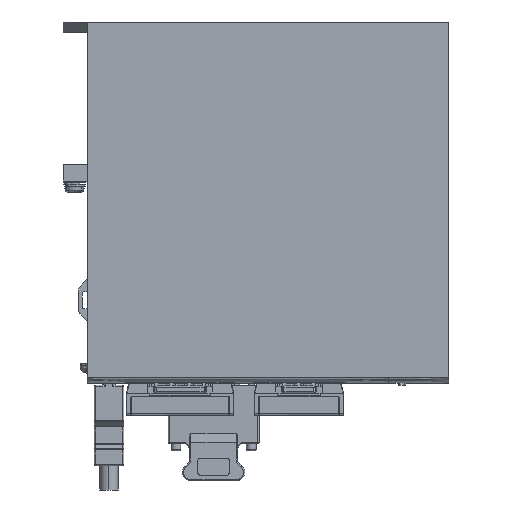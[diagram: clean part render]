
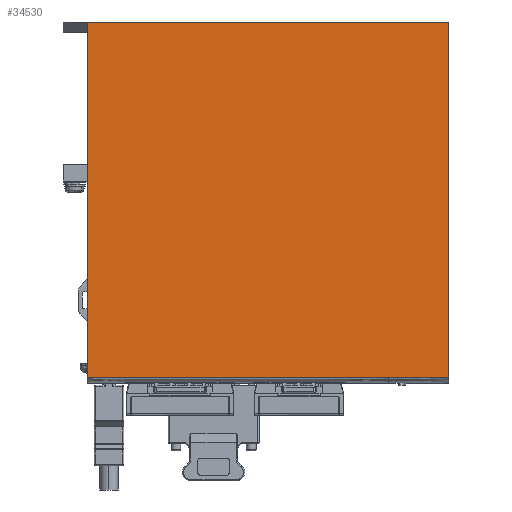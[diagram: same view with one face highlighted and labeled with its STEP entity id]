
A CAD part, front view. The second image highlights one B-rep face of the part: STEP entity #34530.
In plain terms, the highlighted planar face has unit normal (0, -1, 0).
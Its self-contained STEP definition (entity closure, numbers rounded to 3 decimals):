
#2845 = VERTEX_POINT ( 'NONE', #132461 ) ;
#3465 = VERTEX_POINT ( 'NONE', #112826 ) ;
#5259 = EDGE_CURVE ( 'NONE', #2845, #3465, #71712, .T. ) ;
#6756 = DIRECTION ( 'NONE',  ( 1., 0., 0. ) ) ;
#17033 = CARTESIAN_POINT ( 'NONE',  ( -150., 0., -81.9 ) ) ;
#20353 = CARTESIAN_POINT ( 'NONE',  ( -150., 0., 65.6 ) ) ;
#25976 = CARTESIAN_POINT ( 'NONE',  ( 0., 0., -81.9 ) ) ;
#28404 = VERTEX_POINT ( 'NONE', #20353 ) ;
#28653 = CARTESIAN_POINT ( 'NONE',  ( -150., 0., -81.9 ) ) ;
#34530 = ADVANCED_FACE ( 'NONE', ( #137076 ), #74881, .T. ) ;
#36212 = VECTOR ( 'NONE', #6756, 1000. ) ;
#40232 = ORIENTED_EDGE ( 'NONE', *, *, #5259, .T. ) ;
#50541 = DIRECTION ( 'NONE',  ( 0., -1., 0. ) ) ;
#50997 = CARTESIAN_POINT ( 'NONE',  ( 0., 0., 65.6 ) ) ;
#51667 = DIRECTION ( 'NONE',  ( 0., 0., -1. ) ) ;
#57845 = EDGE_LOOP ( 'NONE', ( #146431, #119621, #98979, #40232 ) ) ;
#59762 = LINE ( 'NONE', #25976, #115958 ) ;
#67329 = VERTEX_POINT ( 'NONE', #50997 ) ;
#71712 = LINE ( 'NONE', #135880, #86291 ) ;
#74881 = PLANE ( 'NONE',  #146672 ) ;
#83398 = DIRECTION ( 'NONE',  ( 0., 0., -1. ) ) ;
#86291 = VECTOR ( 'NONE', #148082, 1000. ) ;
#98979 = ORIENTED_EDGE ( 'NONE', *, *, #126809, .T. ) ;
#109811 = DIRECTION ( 'NONE',  ( 0., 0., -1. ) ) ;
#112826 = CARTESIAN_POINT ( 'NONE',  ( 0., 0., -81.9 ) ) ;
#115445 = VECTOR ( 'NONE', #51667, 1000. ) ;
#115958 = VECTOR ( 'NONE', #83398, 1000. ) ;
#119621 = ORIENTED_EDGE ( 'NONE', *, *, #130872, .F. ) ;
#121142 = EDGE_CURVE ( 'NONE', #67329, #3465, #59762, .T. ) ;
#126809 = EDGE_CURVE ( 'NONE', #28404, #2845, #135334, .T. ) ;
#130872 = EDGE_CURVE ( 'NONE', #28404, #67329, #150473, .T. ) ;
#132461 = CARTESIAN_POINT ( 'NONE',  ( -150., 0., -81.9 ) ) ;
#133159 = CARTESIAN_POINT ( 'NONE',  ( -150., 0., 65.6 ) ) ;
#135334 = LINE ( 'NONE', #17033, #115445 ) ;
#135880 = CARTESIAN_POINT ( 'NONE',  ( -150., 0., -81.9 ) ) ;
#137076 = FACE_OUTER_BOUND ( 'NONE', #57845, .T. ) ;
#146431 = ORIENTED_EDGE ( 'NONE', *, *, #121142, .F. ) ;
#146672 = AXIS2_PLACEMENT_3D ( 'NONE', #28653, #50541, #109811 ) ;
#148082 = DIRECTION ( 'NONE',  ( 1., 0., 0. ) ) ;
#150473 = LINE ( 'NONE', #133159, #36212 ) ;
